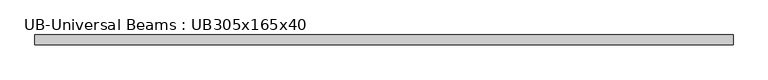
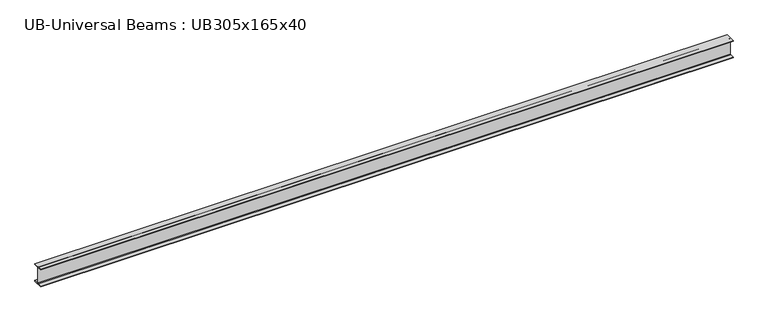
"""IFC4 building model written with IfcOpenShell, lengths in millimetres: beam geometry, UB-Universal Beams : UB305x165x40."""

from ifc_helpers import new_model, si_unit, point, frame, frame_2d, origin, place, context, project, spatial, polyline, circle_curve, trimmed, segment, composite_curve, outline, extrude, source, transform, mapped, element, save


def ub_universal_beams_ub305x165x40_d1f7c369(model_context):
    return source(origin(), model_context, "Body", "SweptSolid", [
        extrude(outline(composite_curve([segment(polyline([(82.5, -141.5), (82.5, -151.7), (-82.5, -151.7), (-82.5, -141.5), (-11.9, -141.5)]), True, "CONTINUOUS"), segment(trimmed(circle_curve(frame_2d((-11.9, -132.6)), 8.9), [point((-11.9, -141.5))], [point((-3.0, -132.6))], True, "CARTESIAN"), True, "CONTINUOUS"), segment(polyline([(-3.0, -132.6), (-3.0, 132.6)]), True, "CONTINUOUS"), segment(trimmed(circle_curve(frame_2d((-11.9, 132.6)), 8.9), [point((-3.0, 132.6))], [point((-11.9, 141.5))], True, "CARTESIAN"), True, "CONTINUOUS"), segment(polyline([(-11.9, 141.5), (-82.5, 141.5), (-82.5, 151.7), (82.5, 151.7), (82.5, 141.5), (11.9, 141.5)]), True, "CONTINUOUS"), segment(trimmed(circle_curve(frame_2d((11.9, 132.6)), 8.9), [point((11.9, 141.5))], [point((3.0, 132.6))], True, "CARTESIAN"), True, "CONTINUOUS"), segment(polyline([(3.0, 132.6), (3.0, -132.6)]), True, "CONTINUOUS"), segment(trimmed(circle_curve(frame_2d((11.9, -132.6)), 8.9), [point((3.0, -132.6))], [point((11.9, -141.5))], True, "CARTESIAN"), True, "CONTINUOUS"), segment(polyline([(11.9, -141.5), (82.5, -141.5)]), True, "CONTINUOUS")], self_intersect=False)), frame((-5745.3, 0.0, 0.0), z_axis=(1.0, 0.0, 0.0), x_axis=(0.0, 1.0, 0.0)), (0.0, 0.0, 1.0), 11490.6),
    ])


if __name__ == "__main__":
    model = new_model("IFC4")
    model_context = context("Model", 3, world=origin())
    ifc_project = project(units=[si_unit("LENGTHUNIT", "METRE", prefix="MILLI")], contexts=[model_context])
    site = spatial("IfcSite", under=ifc_project)
    building = spatial("IfcBuilding", under=site)
    placement = place(None, origin())
    ub_universal_beams_ub305x165x40_shape = ub_universal_beams_ub305x165x40_d1f7c369(model_context)
    element("IfcBeam", 1, ObjectType="UB-Universal Beams : UB305x165x40", at=placement, inside=building, context=model_context, shape_type="MappedRepresentation", body=[
        mapped(ub_universal_beams_ub305x165x40_shape, transform((0.0, 0.0, 0.0), x_axis=(1.0, 0.0, 0.0), y_axis=(0.0, 1.0, 0.0), z_axis=(0.0, 0.0, 1.0))),
    ])
    save(model, "model.ifc")
